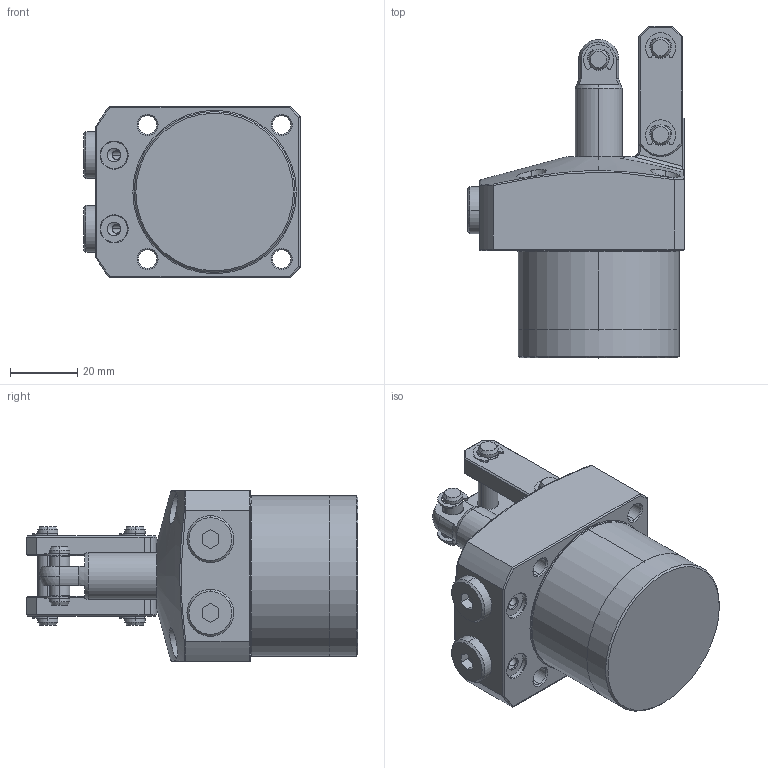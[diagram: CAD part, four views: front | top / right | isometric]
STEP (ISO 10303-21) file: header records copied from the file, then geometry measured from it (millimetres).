
FILE_DESCRIPTION(/* description */ (''),/* implementation_level */ '2;1');
FILE_NAME(/* name */ 'KTPC48-F.stp',/* time_stamp */ '2022-11-18T14:39:48+08:00',/* author */ (''),/* organization */ (''),/* preprocessor_version */ 'ST-DEVELOPER v16.7',/* originating_system */ 'SIEMENS PLM Software NX 12.0',/* authorisation */ '');
FILE_SCHEMA (('AP203_CONFIGURATION_CONTROLLED_3D_DESIGN_OF_MECHANICAL_PARTS_AND_ASSEMBLIES_MIM_LF { 1 0 10303 403 2 1 2}'));
Length unit declared in the file: millimetre
Products named in the file (9): KTPC48-F-08; KTPC48-F-05; KTPC48-F-01; KTPC48-F-04; KTPC48-F-07; KTPC48-F-03; KTPC48-F-02; KTPC48-F-06; LKA0480-CC_step
Assembly tree (16 placements, depth 2):
  LKA0480-CC_step
    KTPC48-F-06  x2
    KTPC48-F-02
    KTPC48-F-03
    KTPC48-F-07  x6
    KTPC48-F-04  x2
    KTPC48-F-01
    KTPC48-F-05  x2
    KTPC48-F-08
Bounding box: 64.5 x 99 x 51 mm (x, y, z)
Volume: 187368.2 mm3; surface area: 34835.5 mm2
Topology: 16 solids, 16 shells, 560 faces, 1350 edges, 844 vertices
Faces by surface type: cylinder 236, plane 175, cone 70, torus 60, bspline 17, sphere 2
Full cylindrical faces by diameter (mm): 48 x1
Entity records: 11483 total; most frequent: CARTESIAN_POINT 2845, DIRECTION 1620, ORIENTED_EDGE 1492, EDGE_CURVE 746, AXIS2_PLACEMENT_3D 663, VERTEX_POINT 458, EDGE_LOOP 362, CIRCLE 340
